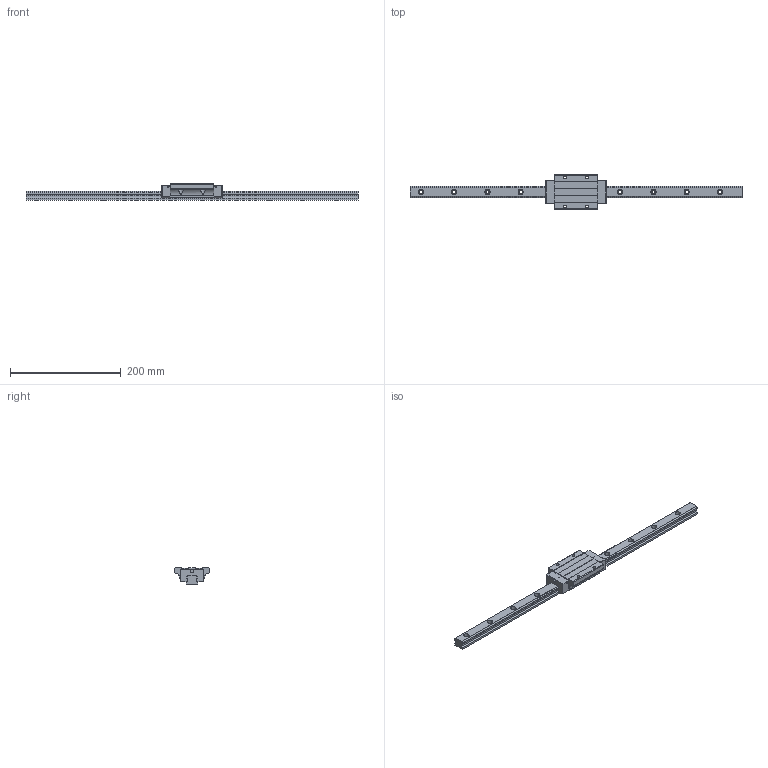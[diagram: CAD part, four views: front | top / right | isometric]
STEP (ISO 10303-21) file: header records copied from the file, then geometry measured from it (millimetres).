
FILE_DESCRIPTION (( 'STEP AP203' ), '1' );
FILE_NAME ('TRH20FE-ZN.STEP', '2024-05-14T06:20:44', ( '' ), ( '' ), 'SwSTEP 2.0', 'SolidWorks 2022', '' );
FILE_SCHEMA (( 'CONFIG_CONTROL_DESIGN' ));
Length unit declared in the file: millimetre
Products named in the file (1): TRH20FE-ZN
Bounding box: 600 x 63 x 30 mm (x, y, z)
Volume: 271083.5 mm3; surface area: 72501.5 mm2
Topology: 2 solids, 2 shells, 222 faces, 598 edges, 392 vertices
Faces by surface type: cylinder 126, plane 92, sphere 4
Entity records: 7729 total; most frequent: CARTESIAN_POINT 1871, DIRECTION 1242, ORIENTED_EDGE 1188, EDGE_CURVE 594, AXIS2_PLACEMENT_3D 451, VERTEX_POINT 392, LINE 340, VECTOR 340
